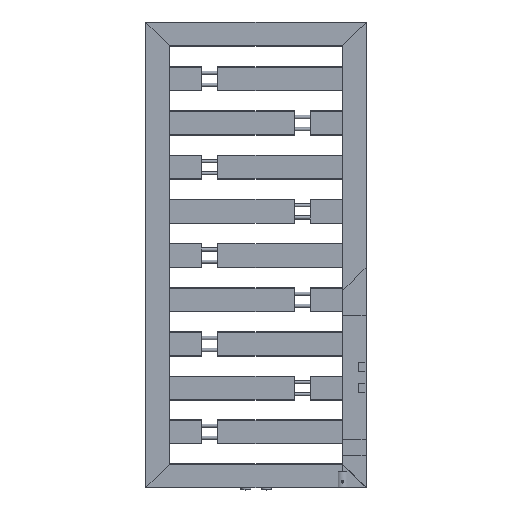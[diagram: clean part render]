
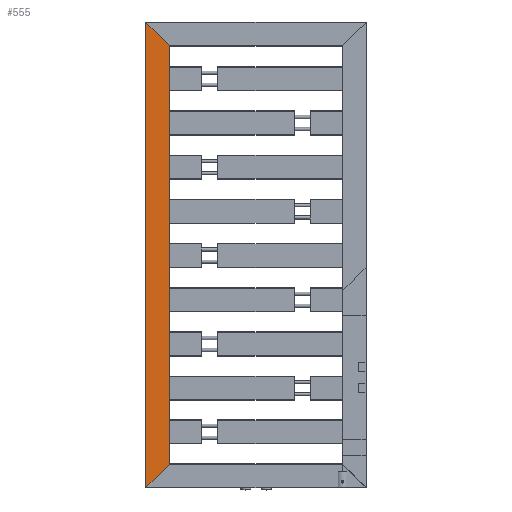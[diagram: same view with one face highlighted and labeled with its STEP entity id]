
A CAD part, top view. The second image highlights one B-rep face of the part: STEP entity #555.
In plain terms, the highlighted planar face has unit normal (0, 0, 1) as drawn and (0, 0, -1) by its records, which use the part's own axes.
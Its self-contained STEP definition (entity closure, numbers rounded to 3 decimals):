
#555 = ADVANCED_FACE( '', ( #1336 ), #1337, .T. );
#1336 = FACE_OUTER_BOUND( '', #2554, .T. );
#1337 = PLANE( '', #2555 );
#2554 = EDGE_LOOP( '', ( #3970, #3971, #3972, #3973 ) );
#2555 = AXIS2_PLACEMENT_3D( '', #3974, #3975, #3976 );
#3970 = ORIENTED_EDGE( '', *, *, #6845, .F. );
#3971 = ORIENTED_EDGE( '', *, *, #6846, .T. );
#3972 = ORIENTED_EDGE( '', *, *, #6847, .T. );
#3973 = ORIENTED_EDGE( '', *, *, #6848, .F. );
#3974 = CARTESIAN_POINT( '', ( 1., 1160., 0. ) );
#3975 = DIRECTION( '', ( 0., 0., -1. ) );
#3976 = DIRECTION( '', ( -1., 0., 0. ) );
#6845 = EDGE_CURVE( '', #8055, #8056, #8057, .T. );
#6846 = EDGE_CURVE( '', #8055, #8058, #8059, .T. );
#6847 = EDGE_CURVE( '', #8058, #8060, #8061, .T. );
#6848 = EDGE_CURVE( '', #8056, #8060, #8062, .T. );
#8055 = VERTEX_POINT( '', #9849 );
#8056 = VERTEX_POINT( '', #9850 );
#8057 = LINE( '', #9851, #9852 );
#8058 = VERTEX_POINT( '', #9853 );
#8059 = LINE( '', #9854, #9855 );
#8060 = VERTEX_POINT( '', #9856 );
#8061 = LINE( '', #9857, #9858 );
#8062 = LINE( '', #9859, #9860 );
#9849 = CARTESIAN_POINT( '', ( 1., 1101., 0. ) );
#9850 = CARTESIAN_POINT( '', ( 1., 59., 0. ) );
#9851 = CARTESIAN_POINT( '', ( 1., 1160., 0. ) );
#9852 = VECTOR( '', #12612, 1000. );
#9853 = CARTESIAN_POINT( '', ( 59., 1159., 0. ) );
#9854 = CARTESIAN_POINT( '', ( 30.5, 1130.5, 0. ) );
#9855 = VECTOR( '', #12613, 1000. );
#9856 = CARTESIAN_POINT( '', ( 59., 1., 0. ) );
#9857 = CARTESIAN_POINT( '', ( 59., 1160., 0. ) );
#9858 = VECTOR( '', #12614, 1000. );
#9859 = CARTESIAN_POINT( '', ( -549.5, 609.5, 0. ) );
#9860 = VECTOR( '', #12615, 1000. );
#12612 = DIRECTION( '', ( 0., -1., 0. ) );
#12613 = DIRECTION( '', ( 0.707, 0.707, 0. ) );
#12614 = DIRECTION( '', ( 0., -1., 0. ) );
#12615 = DIRECTION( '', ( 0.707, -0.707, 0. ) );
